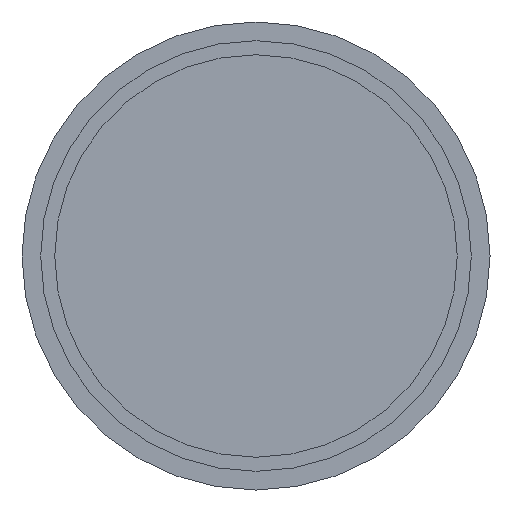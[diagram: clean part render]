
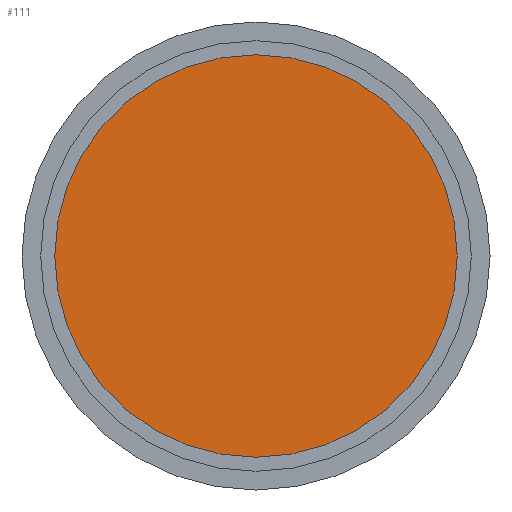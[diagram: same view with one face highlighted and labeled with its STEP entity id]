
A CAD part, front view. The second image highlights one B-rep face of the part: STEP entity #111.
In plain terms, the highlighted planar face has unit normal (0, -1, 0).
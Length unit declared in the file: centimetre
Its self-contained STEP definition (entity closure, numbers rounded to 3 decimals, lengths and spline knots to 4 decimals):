
#22=PLANE('',#145);
#28=FACE_OUTER_BOUND('',#37,.T.);
#37=EDGE_LOOP('',(#87));
#56=CIRCLE('',#144,1.075);
#64=VERTEX_POINT('',#203);
#73=EDGE_CURVE('',#64,#64,#56,.T.);
#87=ORIENTED_EDGE('',*,*,#73,.T.);
#111=ADVANCED_FACE('',(#28),#22,.F.);
#144=AXIS2_PLACEMENT_3D('',#205,#166,#167);
#145=AXIS2_PLACEMENT_3D('',#206,#168,#169);
#166=DIRECTION('center_axis',(0.,-1.,0.));
#167=DIRECTION('ref_axis',(-1.,0.,0.));
#168=DIRECTION('center_axis',(0.,1.,0.));
#169=DIRECTION('ref_axis',(0.,0.,-1.));
#203=CARTESIAN_POINT('',(1.075,0.75,0.));
#205=CARTESIAN_POINT('Origin',(0.,0.75,0.));
#206=CARTESIAN_POINT('Origin',(0.,0.75,0.));
